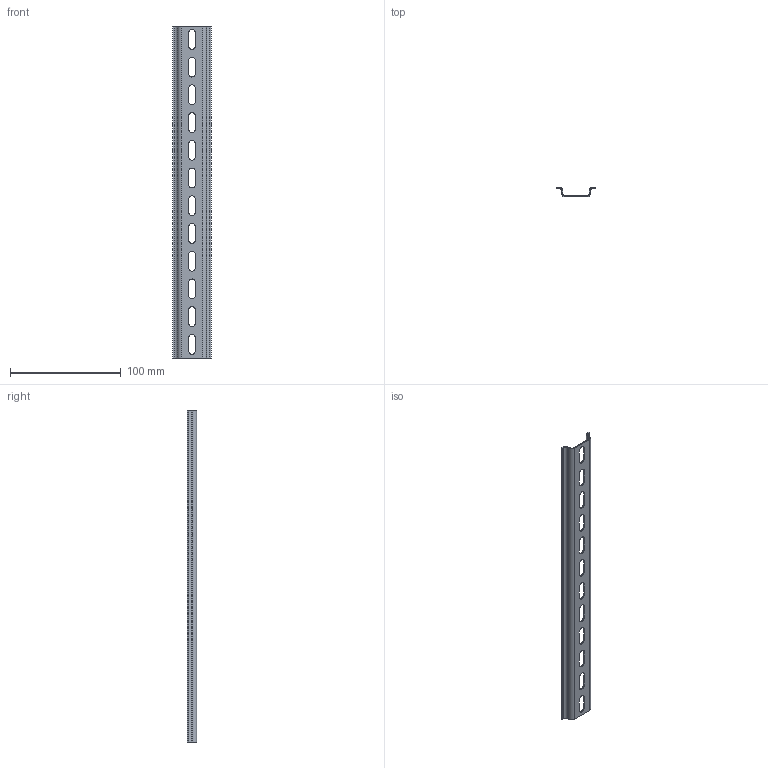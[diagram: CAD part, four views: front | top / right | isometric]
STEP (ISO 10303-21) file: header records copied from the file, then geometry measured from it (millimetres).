
FILE_DESCRIPTION (( 'STEP AP214' ), '1' );
FILE_NAME ('DIN-ðåéêà 300ìì õ 0,1 ìì.STEP', '2025-10-22T11:51:41', ( '' ), ( '' ), 'SwSTEP 2.0', 'SolidWorks 2018', '' );
FILE_SCHEMA (( 'AUTOMOTIVE_DESIGN' ));
Length unit declared in the file: millimetre
Products named in the file (1): DIN-ðåéêà 300ìì õ 0,1 ìì
Bounding box: 35.2 x 8.5 x 300 mm (x, y, z)
Volume: 12291.2 mm3; surface area: 25786.4 mm2
Topology: 1 solids, 1 shells, 98 faces, 256 edges, 160 vertices
Faces by surface type: plane 54, cylinder 44
Entity records: 3074 total; most frequent: DIRECTION 542, CARTESIAN_POINT 515, ORIENTED_EDGE 512, EDGE_CURVE 256, AXIS2_PLACEMENT_3D 187, LINE 168, VECTOR 168, VERTEX_POINT 160
